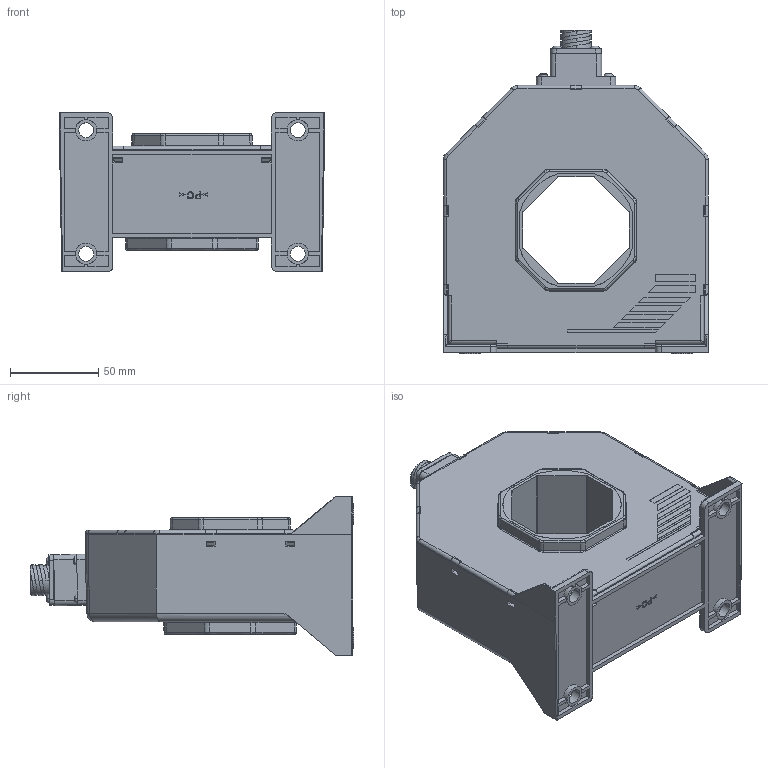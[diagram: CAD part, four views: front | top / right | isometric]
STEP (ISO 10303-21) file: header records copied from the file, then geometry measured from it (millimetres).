
FILE_DESCRIPTION(('CoCreate Modeling STEP Export'),'2;1');
FILE_NAME('LT 2005-S_SP15_Blakcbox.stp','2009-06-10T 9:22:45',(''),(''),'CoCreate Modeling STEP processor for AP214 (Solid Model)','CoCreate Modeling 16.00A 16-Aug-2008 (C) Parametric Technology GmbH','');
FILE_SCHEMA(('AUTOMOTIVE_DESIGN { 1 0 10303 214 1 1 1 1 }'));
Products named in the file (14): boitier-T4; EntretoiseT3; connecteur; vis-KA30x30.2; vis-KA30x30.2.1; vis-KA30x30.2.1.1; vis-KA30x30.2.1.1.1; vis-KA30x30.2.1.2; vis-KA30x30.2.1.2.1; vis-KA30x30.2.1.2.2; vis-KA30x30.2.1.2.2.1; Visserie; Connecteur_APM_CPC; LT2005-S_SP15_Blackbox
Assembly tree (13 placements, depth 4):
  LT2005-S_SP15_Blackbox
    Connecteur_APM_CPC
      Visserie
        vis-KA30x30.2.1.2.2.1
        vis-KA30x30.2.1.2.2
        vis-KA30x30.2.1.2.1
        vis-KA30x30.2.1.2
        vis-KA30x30.2.1.1.1
        vis-KA30x30.2.1.1
        vis-KA30x30.2.1
        vis-KA30x30.2
      connecteur
      EntretoiseT3
    boitier-T4
Bounding box: 150 x 183.29 x 90 mm (x, y, z)
Volume: 960680.7 mm3; surface area: 107335.9 mm2
Topology: 11 solids, 11 shells, 1313 faces, 3412 edges, 2192 vertices
Faces by surface type: plane 856, cylinder 247, bspline 104, extrusion 40, cone 36, torus 30
Entity records: 64020 total; most frequent: CARTESIAN_POINT 27217, ORIENTED_EDGE 6772, DIRECTION 5052, EDGE_CURVE 3386, VECTOR 2334, LINE 2294, VERTEX_POINT 2192, EDGE_LOOP 1446
